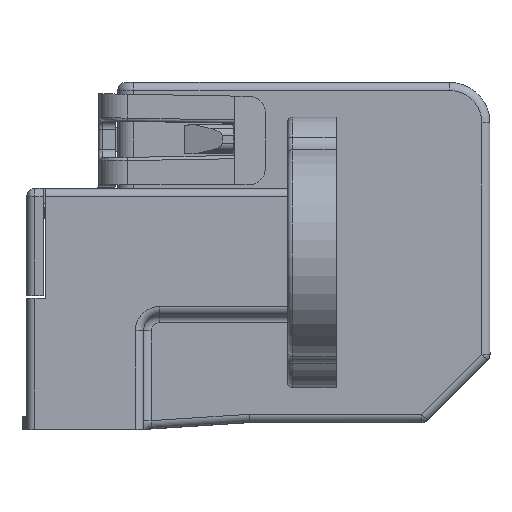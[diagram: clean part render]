
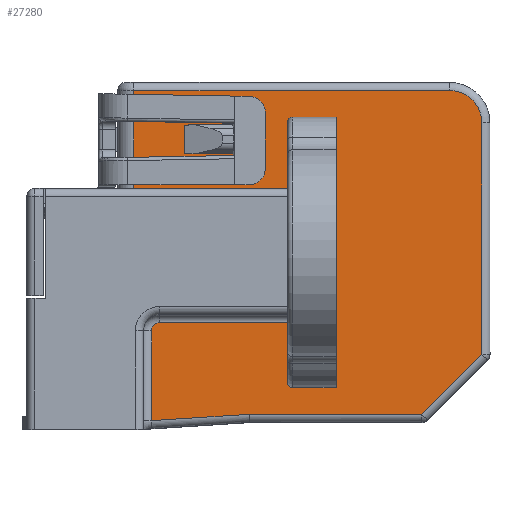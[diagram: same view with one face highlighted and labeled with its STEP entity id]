
A CAD part, top view. The second image highlights one B-rep face of the part: STEP entity #27280.
In plain terms, the highlighted planar face has unit normal (0, 0, 1) as drawn and (0, 0, -1) by its records, which use the part's own axes.
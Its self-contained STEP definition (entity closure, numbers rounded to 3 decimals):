
#16830=CARTESIAN_POINT('',(1.757,-54.271,
-17.35));
#16840=DIRECTION('',(-0.707,0.707,
0.));
#16850=VECTOR('',#16840,1.);
#16860=LINE('',#16830,#16850);
#16870=CARTESIAN_POINT('',(1.757,-54.271,
-17.35));
#16880=VERTEX_POINT('',#16870);
#16890=CARTESIAN_POINT('',(-1.95,-50.564,
-17.35));
#16900=VERTEX_POINT('',#16890);
#16910=EDGE_CURVE('',#16880,#16900,#16860,.T.);
#21860=CARTESIAN_POINT('',(18.46,-54.663,
-17.35));
#21870=DIRECTION('',(-0.998,0.065,0.));
#21880=VECTOR('',#21870,1.);
#21890=LINE('',#21860,#21880);
#21900=CARTESIAN_POINT('',(18.46,-54.663,
-17.35));
#21910=VERTEX_POINT('',#21900);
#21920=CARTESIAN_POINT('',(12.42,-54.271,
-17.35));
#21930=VERTEX_POINT('',#21920);
#21940=EDGE_CURVE('',#21910,#21930,#21890,.T.);
#25440=CARTESIAN_POINT('',(18.46,-49.121,
-17.35));
#25450=VERTEX_POINT('',#25440);
#25480=CARTESIAN_POINT('',(18.46,-54.663,
-17.35));
#25490=DIRECTION('',(0.,1.,0.));
#25500=VECTOR('',#25490,1.);
#25510=LINE('',#25480,#25500);
#25520=EDGE_CURVE('',#21910,#25450,#25510,.T.);
#25640=CARTESIAN_POINT('',(3.05,-44.271,
-17.35));
#25650=DIRECTION('',(0.,0.,-1.));
#25660=DIRECTION('',(0.,1.,0.));
#25670=AXIS2_PLACEMENT_3D('',#25640,#25650,#25660);
#25680=PLANE('',#25670);
#25690=CARTESIAN_POINT('',(10.05,-52.321,
-17.35));
#25700=DIRECTION('',(0.,1.,0.));
#25710=VECTOR('',#25700,1.);
#25720=LINE('',#25690,#25710);
#25730=CARTESIAN_POINT('',(10.05,-52.321,
-17.35));
#25740=VERTEX_POINT('',#25730);
#25750=CARTESIAN_POINT('',(10.05,-48.621,
-17.35));
#25760=VERTEX_POINT('',#25750);
#25770=EDGE_CURVE('',#25740,#25760,#25720,.T.);
#25780=ORIENTED_EDGE('',*,*,#25770,.T.);
#25790=CARTESIAN_POINT('',(9.75,-52.321,
-17.35));
#25800=DIRECTION('',(0.,0.,1.));
#25810=DIRECTION('',(0.,-1.,0.));
#25820=AXIS2_PLACEMENT_3D('',#25790,#25800,#25810);
#25830=CIRCLE('',#25820,0.3);
#25840=CARTESIAN_POINT('',(9.75,-52.621,
-17.35));
#25850=VERTEX_POINT('',#25840);
#25860=EDGE_CURVE('',#25850,#25740,#25830,.T.);
#25870=ORIENTED_EDGE('',*,*,#25860,.T.);
#25880=CARTESIAN_POINT('',(9.75,-52.621,
-17.35));
#25890=DIRECTION('',(-1.,0.,0.));
#25900=VECTOR('',#25890,1.);
#25910=LINE('',#25880,#25900);
#25920=CARTESIAN_POINT('',(7.05,-52.621,
-17.35));
#25930=VERTEX_POINT('',#25920);
#25940=EDGE_CURVE('',#25850,#25930,#25910,.T.);
#25950=ORIENTED_EDGE('',*,*,#25940,.F.);
#25960=CARTESIAN_POINT('',(7.05,-52.621,
-17.35));
#25970=DIRECTION('',(0.,1.,0.));
#25980=VECTOR('',#25970,1.);
#25990=LINE('',#25960,#25980);
#26000=CARTESIAN_POINT('',(7.05,-35.921,
-17.35));
#26010=VERTEX_POINT('',#26000);
#26020=EDGE_CURVE('',#25930,#26010,#25990,.T.);
#26030=ORIENTED_EDGE('',*,*,#26020,.F.);
#26040=CARTESIAN_POINT('',(7.05,-35.921,
-17.35));
#26050=DIRECTION('',(1.,0.,0.));
#26060=VECTOR('',#26050,1.);
#26070=LINE('',#26040,#26060);
#26080=CARTESIAN_POINT('',(9.75,-35.921,
-17.35));
#26090=VERTEX_POINT('',#26080);
#26100=EDGE_CURVE('',#26010,#26090,#26070,.T.);
#26110=ORIENTED_EDGE('',*,*,#26100,.F.);
#26120=CARTESIAN_POINT('',(9.75,-36.221,
-17.35));
#26130=DIRECTION('',(0.,0.,1.));
#26140=DIRECTION('',(1.,0.,0.));
#26150=AXIS2_PLACEMENT_3D('',#26120,#26130,#26140);
#26160=CIRCLE('',#26150,0.3);
#26170=CARTESIAN_POINT('',(10.05,-36.221,
-17.35));
#26180=VERTEX_POINT('',#26170);
#26190=EDGE_CURVE('',#26180,#26090,#26160,.T.);
#26200=ORIENTED_EDGE('',*,*,#26190,.T.);
#26210=CARTESIAN_POINT('',(10.05,-40.323,
-17.35));
#26220=DIRECTION('',(0.,1.,0.));
#26230=VECTOR('',#26220,1.);
#26240=LINE('',#26210,#26230);
#26250=CARTESIAN_POINT('',(10.05,-40.323,
-17.35));
#26260=VERTEX_POINT('',#26250);
#26270=EDGE_CURVE('',#26260,#26180,#26240,.T.);
#26280=ORIENTED_EDGE('',*,*,#26270,.T.);
#26290=CARTESIAN_POINT('',(10.05,-40.323,
-17.35));
#26300=DIRECTION('',(1.,0.,0.));
#26310=VECTOR('',#26300,1.);
#26320=LINE('',#26290,#26310);
#26330=CARTESIAN_POINT('',(19.55,-40.323,
-17.35));
#26340=VERTEX_POINT('',#26330);
#26350=EDGE_CURVE('',#26260,#26340,#26320,.T.);
#26360=ORIENTED_EDGE('',*,*,#26350,.F.);
#26370=CARTESIAN_POINT('',(19.55,-40.323,
-17.35));
#26380=DIRECTION('',(0.,1.,0.));
#26390=VECTOR('',#26380,1.);
#26400=LINE('',#26370,#26390);
#26410=CARTESIAN_POINT('',(19.55,-34.271,
-17.35));
#26420=VERTEX_POINT('',#26410);
#26430=EDGE_CURVE('',#26340,#26420,#26400,.T.);
#26440=ORIENTED_EDGE('',*,*,#26430,.F.);
#26450=CARTESIAN_POINT('',(19.55,-34.271,
-17.35));
#26460=DIRECTION('',(-1.,0.,0.));
#26470=VECTOR('',#26460,1.);
#26480=LINE('',#26450,#26470);
#26490=CARTESIAN_POINT('',(0.05,-34.271,
-17.35));
#26500=VERTEX_POINT('',#26490);
#26510=EDGE_CURVE('',#26420,#26500,#26480,.T.);
#26520=ORIENTED_EDGE('',*,*,#26510,.F.);
#26530=CARTESIAN_POINT('',(0.05,-36.271,
-17.35));
#26540=DIRECTION('',(0.,0.,-1.));
#26550=DIRECTION('',(-1.,0.,0.));
#26560=AXIS2_PLACEMENT_3D('',#26530,#26540,#26550);
#26570=CIRCLE('',#26560,2.);
#26580=CARTESIAN_POINT('',(-1.95,-36.271,
-17.35));
#26590=VERTEX_POINT('',#26580);
#26600=EDGE_CURVE('',#26590,#26500,#26570,.T.);
#26610=ORIENTED_EDGE('',*,*,#26600,.T.);
#26620=CARTESIAN_POINT('',(-1.95,-36.271,
-17.35));
#26630=DIRECTION('',(0.,-1.,0.));
#26640=VECTOR('',#26630,1.);
#26650=LINE('',#26620,#26640);
#26660=EDGE_CURVE('',#26590,#16900,#26650,.T.);
#26670=ORIENTED_EDGE('',*,*,#26660,.F.);
#26680=ORIENTED_EDGE('',*,*,#16910,.T.);
#26690=CARTESIAN_POINT('',(1.757,-54.271,
-17.35));
#26700=DIRECTION('',(1.,0.,0.));
#26710=VECTOR('',#26700,1.);
#26720=LINE('',#26690,#26710);
#26730=EDGE_CURVE('',#16880,#21930,#26720,.T.);
#26740=ORIENTED_EDGE('',*,*,#26730,.F.);
#26750=ORIENTED_EDGE('',*,*,#21940,.T.);
#26760=ORIENTED_EDGE('',*,*,#25520,.F.);
#26770=CARTESIAN_POINT('',(17.96,-49.121,
-17.35));
#26780=DIRECTION('',(0.,0.,-1.));
#26790=DIRECTION('',(0.,1.,0.));
#26800=AXIS2_PLACEMENT_3D('',#26770,#26780,#26790);
#26810=CIRCLE('',#26800,0.5);
#26820=CARTESIAN_POINT('',(17.96,-48.621,
-17.35));
#26830=VERTEX_POINT('',#26820);
#26840=EDGE_CURVE('',#26830,#25450,#26810,.T.);
#26850=ORIENTED_EDGE('',*,*,#26840,.T.);
#26860=CARTESIAN_POINT('',(17.96,-48.621,
-17.35));
#26870=DIRECTION('',(-1.,0.,0.));
#26880=VECTOR('',#26870,1.);
#26890=LINE('',#26860,#26880);
#26900=EDGE_CURVE('',#26830,#25760,#26890,.T.);
#26910=ORIENTED_EDGE('',*,*,#26900,.F.);
#26920=EDGE_LOOP('',(#26910,#26850,#26760,#26750,#26740,#26680,#26670,
#26610,#26520,#26440,#26360,#26280,#26200,#26110,#26030,#25950,#25870,
#25780));
#26930=FACE_OUTER_BOUND('',#26920,.T.);
#26940=CARTESIAN_POINT('',(13.449,-38.189,
-17.35));
#26950=DIRECTION('',(1.,0.004,0.));
#26960=VECTOR('',#26950,1.);
#26970=LINE('',#26940,#26960);
#26980=CARTESIAN_POINT('',(13.449,-38.189,
-17.35));
#26990=VERTEX_POINT('',#26980);
#27000=CARTESIAN_POINT('',(16.43,-38.176,
-17.35));
#27010=VERTEX_POINT('',#27000);
#27020=EDGE_CURVE('',#26990,#27010,#26970,.T.);
#27030=ORIENTED_EDGE('',*,*,#27020,.T.);
#27040=CARTESIAN_POINT('',(13.449,-36.389,
-17.35));
#27050=DIRECTION('',(0.,-1.,0.));
#27060=VECTOR('',#27050,1.);
#27070=LINE('',#27040,#27060);
#27080=CARTESIAN_POINT('',(13.449,-36.389,
-17.35));
#27090=VERTEX_POINT('',#27080);
#27100=EDGE_CURVE('',#27090,#26990,#27070,.T.);
#27110=ORIENTED_EDGE('',*,*,#27100,.T.);
#27120=CARTESIAN_POINT('',(16.43,-36.402,
-17.35));
#27130=DIRECTION('',(-1.,0.004,0.));
#27140=VECTOR('',#27130,1.);
#27150=LINE('',#27120,#27140);
#27160=CARTESIAN_POINT('',(16.43,-36.402,
-17.35));
#27170=VERTEX_POINT('',#27160);
#27180=EDGE_CURVE('',#27170,#27090,#27150,.T.);
#27190=ORIENTED_EDGE('',*,*,#27180,.T.);
#27200=CARTESIAN_POINT('',(16.43,-38.176,
-17.35));
#27210=DIRECTION('',(0.,1.,0.));
#27220=VECTOR('',#27210,1.);
#27230=LINE('',#27200,#27220);
#27240=EDGE_CURVE('',#27010,#27170,#27230,.T.);
#27250=ORIENTED_EDGE('',*,*,#27240,.T.);
#27260=EDGE_LOOP('',(#27250,#27190,#27110,#27030));
#27270=FACE_BOUND('',#27260,.T.);
#27280=ADVANCED_FACE('',(#26930,#27270),#25680,.T.);
